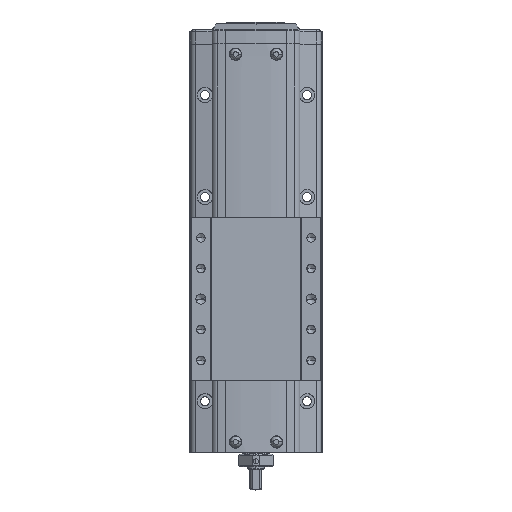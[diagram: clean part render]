
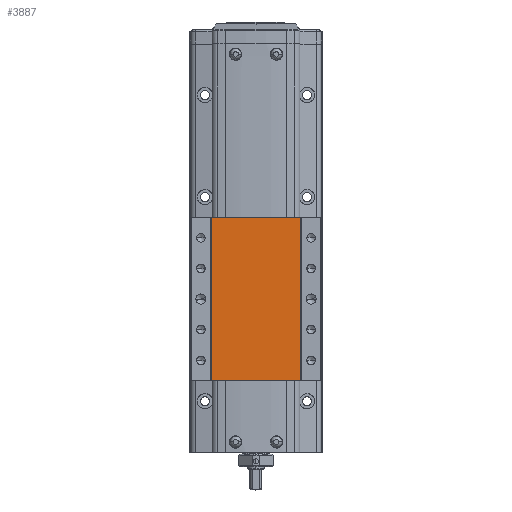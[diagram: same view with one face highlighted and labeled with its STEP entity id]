
A CAD part, top view. The second image highlights one B-rep face of the part: STEP entity #3887.
In plain terms, the highlighted planar face has unit normal (0, 0, 1).
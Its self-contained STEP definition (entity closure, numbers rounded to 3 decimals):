
#3887=ADVANCED_FACE('',(#8211),#8212,.F.);
#8211=FACE_OUTER_BOUND('',#13588,.T.);
#8212=PLANE('',#13589);
#13588=EDGE_LOOP('',(#24771,#24772,#24773,#24774));
#13589=AXIS2_PLACEMENT_3D('',#24775,#24776,#24777);
#24771=ORIENTED_EDGE('',*,*,#34421,.F.);
#24772=ORIENTED_EDGE('',*,*,#31710,.F.);
#24773=ORIENTED_EDGE('',*,*,#30417,.F.);
#24774=ORIENTED_EDGE('',*,*,#34422,.T.);
#24775=CARTESIAN_POINT('',(311.,250.0,26.7));
#24776=DIRECTION('',(0.,0.,-1.0));
#24777=DIRECTION('',(-1.0,0.,0.));
#30417=EDGE_CURVE('',#36393,#36395,#36396,.T.);
#31710=EDGE_CURVE('',#36395,#38628,#38631,.T.);
#34421=EDGE_CURVE('',#38628,#42532,#42533,.T.);
#34422=EDGE_CURVE('',#36393,#42532,#42534,.T.);
#36393=VERTEX_POINT('',#45007);
#36395=VERTEX_POINT('',#45010);
#36396=LINE('',#45011,#45012);
#38628=VERTEX_POINT('',#48271);
#38631=LINE('',#48276,#48277);
#42532=VERTEX_POINT('',#54086);
#42533=LINE('',#54087,#54088);
#42534=LINE('',#54089,#54090);
#45007=CARTESIAN_POINT('',(322.,250.0,26.7));
#45010=CARTESIAN_POINT('',(278.,250.0,26.7));
#45011=CARTESIAN_POINT('',(322.,250.0,26.7));
#45012=VECTOR('',#56302,10.0);
#48271=CARTESIAN_POINT('',(278.,330.0,26.7));
#48276=CARTESIAN_POINT('',(278.,250.0,26.7));
#48277=VECTOR('',#57803,10.0);
#54086=CARTESIAN_POINT('',(322.,330.0,26.7));
#54087=CARTESIAN_POINT('',(300.,330.0,26.7));
#54088=VECTOR('',#60866,10.0);
#54089=CARTESIAN_POINT('',(322.,250.0,26.7));
#54090=VECTOR('',#60867,10.0);
#56302=DIRECTION('',(-1.0,0.,0.));
#57803=DIRECTION('',(0.,1.0,0.));
#60866=DIRECTION('',(1.0,0.,0.));
#60867=DIRECTION('',(0.,1.0,0.));
